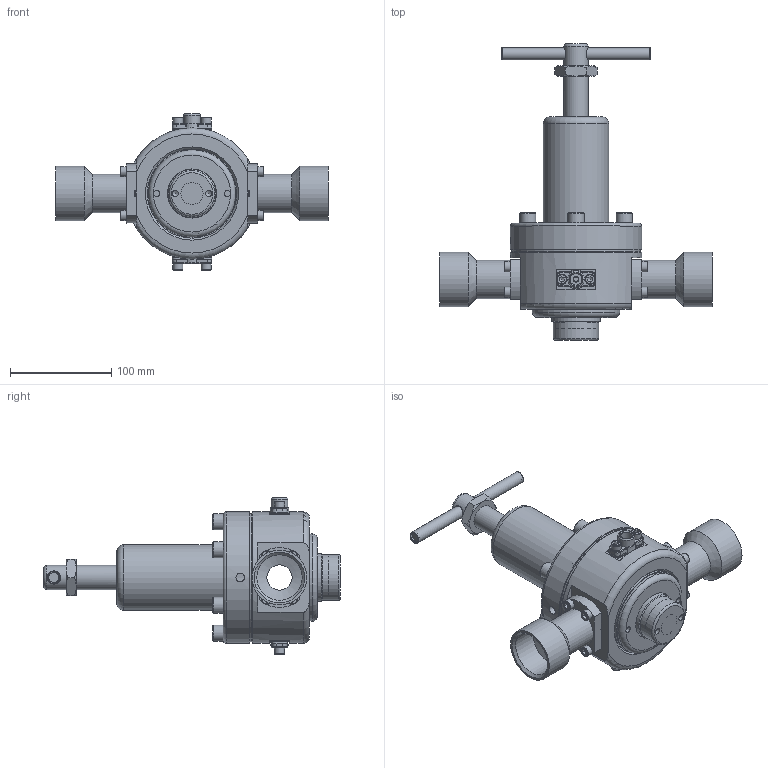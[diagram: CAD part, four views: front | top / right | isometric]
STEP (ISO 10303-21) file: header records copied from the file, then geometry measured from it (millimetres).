
FILE_DESCRIPTION(/* description */ ('Regolatore di pressione 3123'),/* implementation_level */ '2;1');
FILE_NAME(/* name */ 'I:\TEC\Lavoro\ARCHIVIO DISEGNI INVENTOR\WorkSpace\Schizzi\Francesco\1 - AIRCOM MERDA\STEP PER aircomerda\3123# 112 DIAPHRAM.stp',/* time_stamp */ '2023-04-19T13:22:19+02:00',/* author */ ('FrancescoLazio'),/* organization */ (''),/* preprocessor_version */ 'ST-DEVELOPER v19',/* originating_system */ 'Autodesk Inventor 2023',/* authorisation */ '');
FILE_SCHEMA (('AUTOMOTIVE_DESIGN { 1 0 10303 214 3 1 1 }'));
Length unit declared in the file: millimetre
Products named in the file (24): C81011; P20579; P34192; P34186; P37131; P37125; OR 07075; 0DC10410; P37129; OR 07021; P31004; P37098; 0DC10615; 0DC10615_1; 0DC10615_2; 0DC10615_3; 0DC10615_4; 0DC10615_5; C43013; P43064; P30012; 0DN111; P23049; P23031
Assembly tree (37 placements, depth 3):
  C81011
    0DC10410  x12
    P20579
    P34192
    P34186
    P37131
    OR 07021  x2
    P37125  x2
    OR 07075  x2
    P37129
    P31004
    P37098
    0DC10615
    0DC10615_1
    0DC10615_2
    0DC10615_3
    0DC10615_4
    0DC10615_5
    C43013
      P43064
      P30012
      0DN111
    P23049
    P23031
Bounding box: 269 x 292.7 x 154.1 mm (x, y, z)
Volume: 691463.8 mm3; surface area: 277372.1 mm2
Topology: 36 solids, 36 shells, 709 faces, 1770 edges, 1150 vertices
Faces by surface type: plane 262, cylinder 210, cone 96, torus 91, bspline 50
Full cylindrical faces by diameter (mm): 4.917 x12, 5 x2, 5.6 x1, 6 x16, 6.5 x12, 7.7 x2, 8.566 x1, 10 x20, 10.5 x6, 11.2 x2, 11.445 x1, 12 x1, 12.2 x1, 16 x6, 16.5 x1, 21.835 x1, 22 x1, 24 x1, 25 x4, 26 x1, 34.6 x2, 38 x2, 38.5 x2, 44 x1, 44.845 x2, 45 x1, 47.5 x1, 48.5 x1, 50 x1, 50.5 x1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
Entity records: 20085 total; most frequent: CARTESIAN_POINT 6493, DIRECTION 2717, ORIENTED_EDGE 2598, EDGE_CURVE 1299, AXIS2_PLACEMENT_3D 1153, VERTEX_POINT 850, EDGE_LOOP 627, CIRCLE 593
